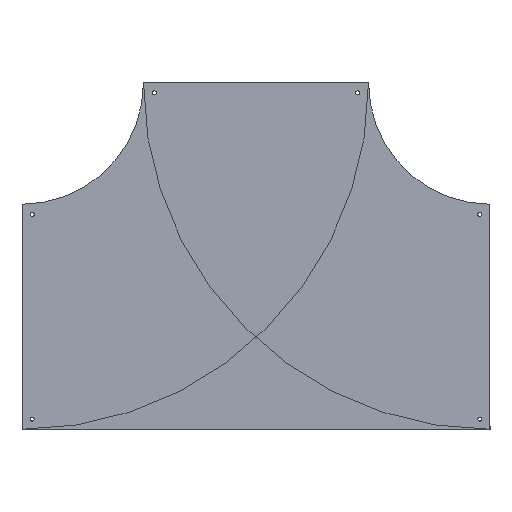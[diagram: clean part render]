
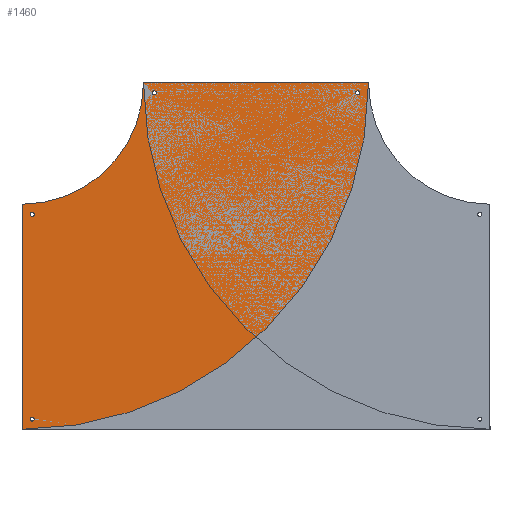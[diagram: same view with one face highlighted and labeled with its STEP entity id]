
A CAD part, top view. The second image highlights one B-rep face of the part: STEP entity #1460.
In plain terms, the highlighted planar face has unit normal (0, 0, 1).
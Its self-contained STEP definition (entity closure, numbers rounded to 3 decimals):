
#89=FACE_BOUND('',#365,.T.);
#90=FACE_BOUND('',#366,.T.);
#91=FACE_BOUND('',#367,.T.);
#92=FACE_BOUND('',#368,.T.);
#149=CIRCLE('',#1604,851.5);
#150=CIRCLE('',#1605,298.5);
#151=CIRCLE('',#1606,5.);
#152=CIRCLE('',#1607,5.);
#153=CIRCLE('',#1608,5.);
#154=CIRCLE('',#1609,5.);
#155=CIRCLE('',#1610,5.);
#156=CIRCLE('',#1611,5.);
#157=CIRCLE('',#1612,5.);
#158=CIRCLE('',#1613,5.);
#268=FACE_OUTER_BOUND('',#364,.T.);
#364=EDGE_LOOP('',(#1224,#1225,#1226,#1227));
#365=EDGE_LOOP('',(#1228,#1229));
#366=EDGE_LOOP('',(#1230,#1231));
#367=EDGE_LOOP('',(#1232,#1233));
#368=EDGE_LOOP('',(#1234,#1235));
#488=LINE('',#2427,#602);
#492=LINE('',#2436,#606);
#602=VECTOR('',#1972,304.8);
#606=VECTOR('',#1978,304.8);
#718=VERTEX_POINT('',#2425);
#719=VERTEX_POINT('',#2426);
#722=VERTEX_POINT('',#2434);
#723=VERTEX_POINT('',#2435);
#726=VERTEX_POINT('',#2445);
#727=VERTEX_POINT('',#2446);
#728=VERTEX_POINT('',#2449);
#729=VERTEX_POINT('',#2450);
#730=VERTEX_POINT('',#2453);
#731=VERTEX_POINT('',#2454);
#732=VERTEX_POINT('',#2457);
#733=VERTEX_POINT('',#2458);
#892=EDGE_CURVE('',#718,#719,#488,.T.);
#896=EDGE_CURVE('',#722,#723,#492,.T.);
#900=EDGE_CURVE('',#718,#723,#149,.T.);
#901=EDGE_CURVE('',#722,#719,#150,.T.);
#902=EDGE_CURVE('',#726,#727,#151,.T.);
#903=EDGE_CURVE('',#727,#726,#152,.T.);
#904=EDGE_CURVE('',#728,#729,#153,.T.);
#905=EDGE_CURVE('',#729,#728,#154,.T.);
#906=EDGE_CURVE('',#730,#731,#155,.T.);
#907=EDGE_CURVE('',#731,#730,#156,.T.);
#908=EDGE_CURVE('',#732,#733,#157,.T.);
#909=EDGE_CURVE('',#733,#732,#158,.T.);
#1224=ORIENTED_EDGE('',*,*,#892,.F.);
#1225=ORIENTED_EDGE('',*,*,#900,.T.);
#1226=ORIENTED_EDGE('',*,*,#896,.F.);
#1227=ORIENTED_EDGE('',*,*,#901,.T.);
#1228=ORIENTED_EDGE('',*,*,#902,.T.);
#1229=ORIENTED_EDGE('',*,*,#903,.T.);
#1230=ORIENTED_EDGE('',*,*,#904,.T.);
#1231=ORIENTED_EDGE('',*,*,#905,.T.);
#1232=ORIENTED_EDGE('',*,*,#906,.T.);
#1233=ORIENTED_EDGE('',*,*,#907,.T.);
#1234=ORIENTED_EDGE('',*,*,#908,.T.);
#1235=ORIENTED_EDGE('',*,*,#909,.T.);
#1396=PLANE('',#1603);
#1460=ADVANCED_FACE('',(#268,#89,#90,#91,#92),#1396,.T.);
#1603=AXIS2_PLACEMENT_3D('',#2442,#1982,#1983);
#1604=AXIS2_PLACEMENT_3D('',#2443,#1984,#1985);
#1605=AXIS2_PLACEMENT_3D('',#2444,#1986,#1987);
#1606=AXIS2_PLACEMENT_3D('',#2447,#1988,#1989);
#1607=AXIS2_PLACEMENT_3D('',#2448,#1990,#1991);
#1608=AXIS2_PLACEMENT_3D('',#2451,#1992,#1993);
#1609=AXIS2_PLACEMENT_3D('',#2452,#1994,#1995);
#1610=AXIS2_PLACEMENT_3D('',#2455,#1996,#1997);
#1611=AXIS2_PLACEMENT_3D('',#2456,#1998,#1999);
#1612=AXIS2_PLACEMENT_3D('',#2459,#2000,#2001);
#1613=AXIS2_PLACEMENT_3D('',#2460,#2002,#2003);
#1972=DIRECTION('',(0.,1.,0.));
#1978=DIRECTION('',(1.,0.,0.));
#1982=DIRECTION('center_axis',(0.,0.,1.));
#1983=DIRECTION('ref_axis',(0.,-1.,0.));
#1984=DIRECTION('center_axis',(0.,0.,1.));
#1985=DIRECTION('ref_axis',(0.,-1.,0.));
#1986=DIRECTION('center_axis',(0.,0.,-1.));
#1987=DIRECTION('ref_axis',(0.,-1.,0.));
#1988=DIRECTION('center_axis',(0.,0.,-1.));
#1989=DIRECTION('ref_axis',(1.,0.,0.));
#1990=DIRECTION('center_axis',(0.,0.,-1.));
#1991=DIRECTION('ref_axis',(1.,0.,0.));
#1992=DIRECTION('center_axis',(0.,0.,-1.));
#1993=DIRECTION('ref_axis',(1.,0.,0.));
#1994=DIRECTION('center_axis',(0.,0.,-1.));
#1995=DIRECTION('ref_axis',(1.,0.,0.));
#1996=DIRECTION('center_axis',(0.,0.,-1.));
#1997=DIRECTION('ref_axis',(1.,0.,0.));
#1998=DIRECTION('center_axis',(0.,0.,-1.));
#1999=DIRECTION('ref_axis',(1.,0.,0.));
#2000=DIRECTION('center_axis',(0.,0.,-1.));
#2001=DIRECTION('ref_axis',(1.,0.,0.));
#2002=DIRECTION('center_axis',(0.,0.,-1.));
#2003=DIRECTION('ref_axis',(1.,0.,0.));
#2425=CARTESIAN_POINT('',(-575.,-276.5,1.5));
#2426=CARTESIAN_POINT('',(-575.,276.5,1.5));
#2427=CARTESIAN_POINT('',(-575.,-276.5,1.5));
#2434=CARTESIAN_POINT('',(-276.5,575.,1.5));
#2435=CARTESIAN_POINT('',(276.5,575.,1.5));
#2436=CARTESIAN_POINT('',(-276.5,575.,1.5));
#2442=CARTESIAN_POINT('Origin',(-575.,575.,1.5));
#2443=CARTESIAN_POINT('Origin',(-575.,575.,1.5));
#2444=CARTESIAN_POINT('Origin',(-575.,575.,1.5));
#2445=CARTESIAN_POINT('',(-545.,-251.5,1.5));
#2446=CARTESIAN_POINT('',(-555.,-251.5,1.5));
#2447=CARTESIAN_POINT('Origin',(-550.,-251.5,1.5));
#2448=CARTESIAN_POINT('Origin',(-550.,-251.5,1.5));
#2449=CARTESIAN_POINT('',(-545.,251.5,1.5));
#2450=CARTESIAN_POINT('',(-555.,251.5,1.5));
#2451=CARTESIAN_POINT('Origin',(-550.,251.5,1.5));
#2452=CARTESIAN_POINT('Origin',(-550.,251.5,1.5));
#2453=CARTESIAN_POINT('',(-245.,550.,1.5));
#2454=CARTESIAN_POINT('',(-255.,550.,1.5));
#2455=CARTESIAN_POINT('Origin',(-250.,550.,1.5));
#2456=CARTESIAN_POINT('Origin',(-250.,550.,1.5));
#2457=CARTESIAN_POINT('',(255.,550.,1.5));
#2458=CARTESIAN_POINT('',(245.,550.,1.5));
#2459=CARTESIAN_POINT('Origin',(250.,550.,1.5));
#2460=CARTESIAN_POINT('Origin',(250.,550.,1.5));
